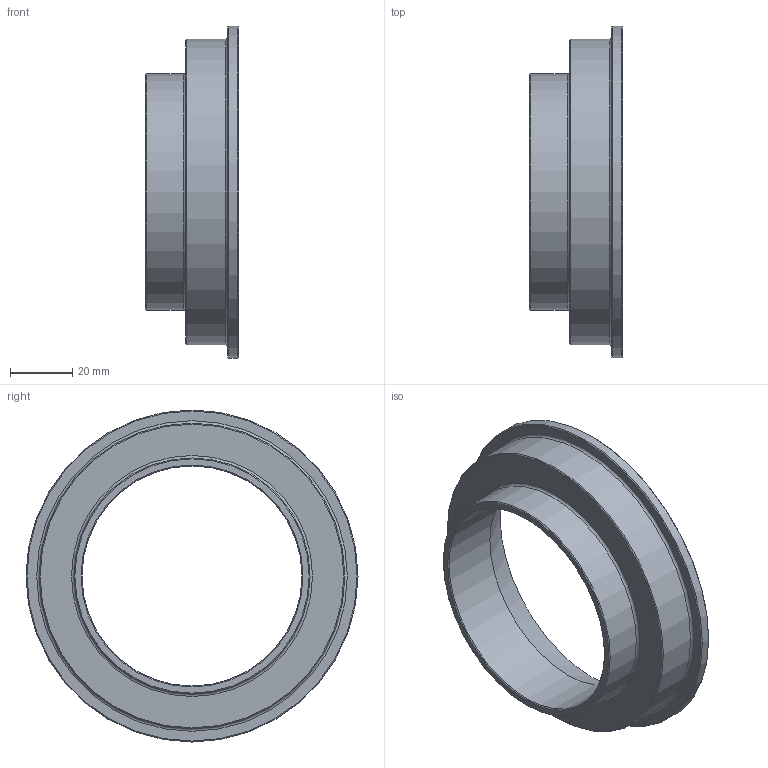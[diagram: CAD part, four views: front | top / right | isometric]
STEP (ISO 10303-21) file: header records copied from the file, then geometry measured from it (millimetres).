
FILE_DESCRIPTION(/* description */ (''),/* implementation_level */ '2;1');
FILE_NAME(/* name */ 'C:\Users\cad\Desktop\Zeichnungen neu von Ralph\3D_Kupplung_R666-SE\3D_R666-SE-76.1-DN100_17113384.stp',/* time_stamp */ '2021-06-18T09:31:26+02:00',/* author */ ('cad'),/* organization */ (''),/* preprocessor_version */ 'ST-DEVELOPER v18.1',/* originating_system */ 'Autodesk Inventor 2022',/* authorisation */ '');
FILE_SCHEMA (('AUTOMOTIVE_DESIGN { 1 0 10303 214 3 1 1 }'));
Length unit declared in the file: millimetre
Products named in the file (1): 3D_R666-SE-76.1-DN100_17113384
Bounding box: 30 x 107 x 107 mm (x, y, z)
Volume: 66665.9 mm3; surface area: 23875.5 mm2
Topology: 1 solids, 1 shells, 16 faces, 35 edges, 23 vertices
Faces by surface type: cone 6, cylinder 4, plane 4, torus 2
Full cylindrical faces by diameter (mm): 70.9 x1, 76.1 x1, 98.5 x1, 107 x1
Entity records: 501 total; most frequent: DIRECTION 94, CARTESIAN_POINT 75, ORIENTED_EDGE 70, AXIS2_PLACEMENT_3D 42, EDGE_CURVE 35, CIRCLE 25, VERTEX_POINT 23, EDGE_LOOP 20
